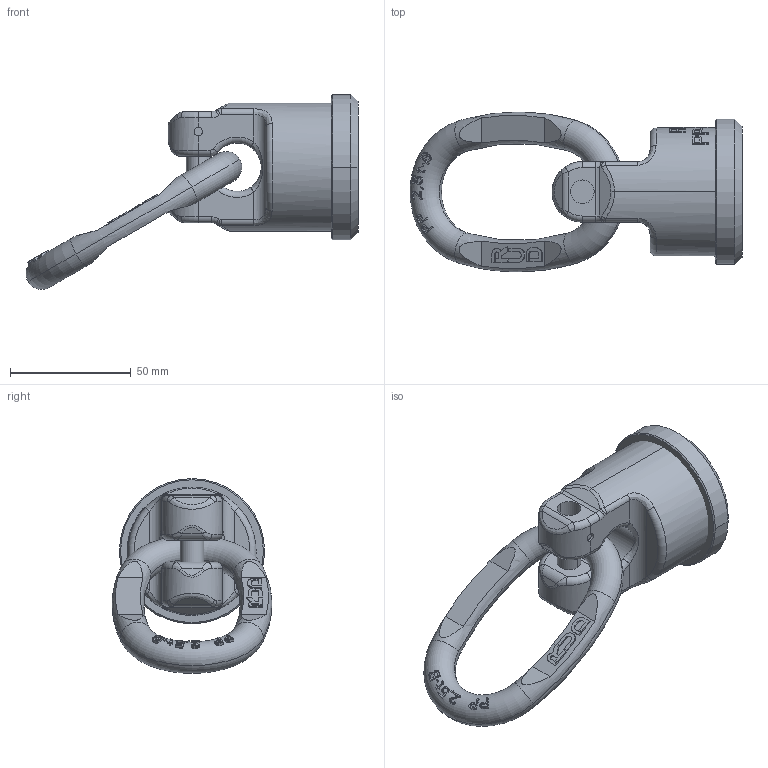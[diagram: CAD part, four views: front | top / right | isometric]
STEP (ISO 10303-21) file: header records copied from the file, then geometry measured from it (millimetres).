
FILE_DESCRIPTION((''),'2;1');
FILE_NAME('001-M31347-P-40_ASM','2018-04-27T',('Anja.Joas'),(''),'PRO/ENGINEER BY PARAMETRIC TECHNOLOGY CORPORATION, 2011490','PRO/ENGINEER BY PARAMETRIC TECHNOLOGY CORPORATION, 2011490','');
FILE_SCHEMA(('CONFIG_CONTROL_DESIGN'));
Length unit declared in the file: millimetre
Products named in the file (4): 001-M31347-P-20; 001-M31347-P-50; 001-M31290-002; 001-M31347-P-40_ASM
Assembly tree (3 placements, depth 2):
  001-M31347-P-40_ASM
    001-M31347-P-20
    001-M31347-P-50
    001-M31290-002
Bounding box: 137.21 x 66.08 x 80.5 mm (x, y, z)
Volume: 156407.8 mm3; surface area: 32470.9 mm2
Topology: 3 solids, 3 shells, 609 faces, 1629 edges, 1060 vertices
Faces by surface type: plane 478, cylinder 64, bspline 30, torus 30, cone 6, extrusion 1
Entity records: 20771 total; most frequent: CARTESIAN_POINT 6358, ORIENTED_EDGE 3258, DIRECTION 2556, EDGE_CURVE 1629, VERTEX_POINT 1060, AXIS2_PLACEMENT_3D 854, VECTOR 848, LINE 847
